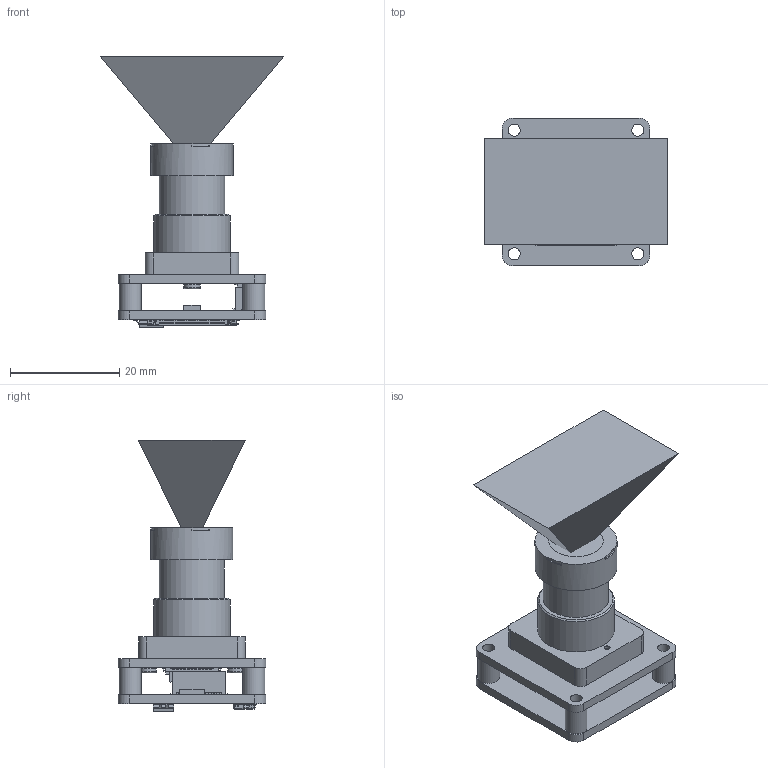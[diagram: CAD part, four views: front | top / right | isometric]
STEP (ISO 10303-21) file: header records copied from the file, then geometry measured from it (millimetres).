
FILE_DESCRIPTION(/* description */ ('STEP AP242 Edition 2','CAx-IF Rec.Pracs.---Representation and Presentation of Product Manufacturing Information (PMI)---4.0---2014-10-13','CAx-IF Rec.Pracs.---3D Tessellated Geometry---0.4---2014-09-14','2;1','CAx-IF Rec.Pracs.---User Defined Attributes---1.5---2016-08-15'),/* implementation_level */ '2;1');
FILE_NAME(/* name */ '6936e2b2ef49f703cc1fdcb3',/* time_stamp */ '2025-12-08T14:37:42Z',/* author */ (''),/* organization */ (''),/* preprocessor_version */ 'ST-DEVELOPER v20',/* originating_system */ 'ONSHAPE BY PTC INC, 1.207',/* authorisation */ ' ');
FILE_SCHEMA (('AP242_MANAGED_MODEL_BASED_3D_ENGINEERING_MIM_LF { 1 0 10303 442 3 1 4 }'));
Products named in the file (73): ZED X ONE Core; Spacer barebone; Screw - Cheese Head Phillips - M1.4 x 0.3 x 5 - Steel - Natural - Zin
c Plate - Glued; Narrow lens <1>; FOV; Image plane; Narrow Lens optic; Narrow Lens mecha; Camera Component - Lens Holder; PCB ZED ONE Barebone <1>; 1085; 20525-x30E-02C RECE ASS''Y STEP R7 ALL; ASSEMBLY <1>; PinsArrayLR; Body; Camera Component - PCB Sensor - ZED X One GS <1>; 10132798-032100LF; ZEDX-ONE-AR0234 V1.0_TOP; 05PITCH-50H-30PIN_ASM <1>; TERMINAL; PAD1; PAD2; 05-50H-30PIN
Assembly tree (98 placements, depth 4):
  ZED X ONE Core
    Spacer barebone  x4
    Screw - Cheese Head Phillips - M1.4 x 0.3 x 5 - Steel - Natural - Zin
c Plate - Glued  x2
    Narrow lens <1>
      FOV
      Image plane
      Narrow Lens optic
      Narrow Lens mecha
    Camera Component - Lens Holder
    PCB ZED ONE Barebone <1>
      1085
      1085
      1085
      1085
      1085
      1085
      1085
      1085
      1085
      ASSEMBLY <1>
        PinsArrayLR
        PinsArrayLR
        PinsArrayLR
        Body
        PinsArrayLR
      Camera Component - PCB Sensor - ZED X One GS <1>
        10132798-032100LF
        10132798-032100LF
        10132798-032100LF
        10132798-032100LF
        10132798-032100LF
        10132798-032100LF
        10132798-032100LF
        10132798-032100LF
        10132798-032100LF
        10132798-032100LF
        10132798-032100LF
        10132798-032100LF
        10132798-032100LF
        10132798-032100LF
        10132798-032100LF
        10132798-032100LF
        10132798-032100LF
        10132798-032100LF
        10132798-032100LF
        10132798-032100LF
        10132798-032100LF
        10132798-032100LF
        ZEDX-ONE-AR0234 V1.0_TOP
        10132798-032100LF
        10132798-032100LF
        10132798-032100LF
        10132798-032100LF
        10132798-032100LF
        10132798-032100LF
        10132798-032100LF
        10132798-032100LF
        10132798-032100LF
        10132798-032100LF
        10132798-032100LF
Bounding box: 33.56 x 27 x 49.62 mm (x, y, z)
Volume: 10080.8 mm3; surface area: 10443.3 mm2
Topology: 99 solids, 99 shells, 5230 faces, 15139 edges, 9997 vertices
Faces by surface type: plane 3616, cylinder 1586, cone 14, bspline 10, torus 4
Full cylindrical faces by diameter (mm): 0.5 x4, 0.562 x1, 0.6 x4, 1 x2, 1.05 x2, 1.1 x2, 1.4 x2, 1.42 x2, 1.5 x2, 2.2 x20, 3 x2, 4 x20, 10.028 x1, 11 x1, 11.5 x1, 11.927 x1, 14 x1, 15 x1
Entity records: 141904 total; most frequent: CARTESIAN_POINT 25198, ORIENTED_EDGE 24262, DIRECTION 22916, EDGE_CURVE 12131, LINE 9770, VECTOR 9770, VERTEX_POINT 8038, AXIS2_PLACEMENT_3D 6573
